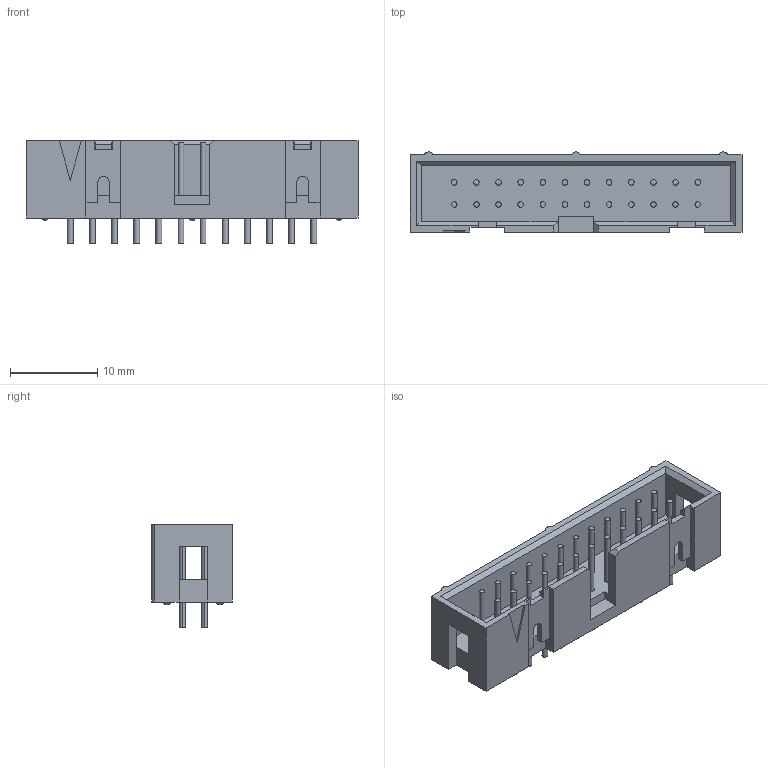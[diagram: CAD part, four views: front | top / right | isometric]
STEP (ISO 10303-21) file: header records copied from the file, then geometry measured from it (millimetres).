
FILE_DESCRIPTION(('STEP AP242'),'1');
FILE_NAME('2-1761603-8.stp','2021-01-28T20:35:58',('TraceParts'),('TraceParts S.A.'),'Spatial InterOp 3D',' ',' ');
FILE_SCHEMA(('AP242_MANAGED_MODEL_BASED_3D_ENGINEERING_MIM_LF {1 0 10303 442 1 1 4}'));
Length unit declared in the file: millimetre
Products named in the file (1): 2-1761603-8
Bounding box: 38.1 x 9.22 x 11.81 mm (x, y, z)
Volume: 1450.2 mm3; surface area: 2404.8 mm2
Topology: 1 solids, 1 shells, 227 faces, 541 edges, 351 vertices
Faces by surface type: plane 116, cylinder 101, sphere 10
Entity records: 6595 total; most frequent: DIRECTION 1207, CARTESIAN_POINT 1122, ORIENTED_EDGE 1062, EDGE_CURVE 531, AXIS2_PLACEMENT_3D 449, VERTEX_POINT 351, LINE 309, VECTOR 309
